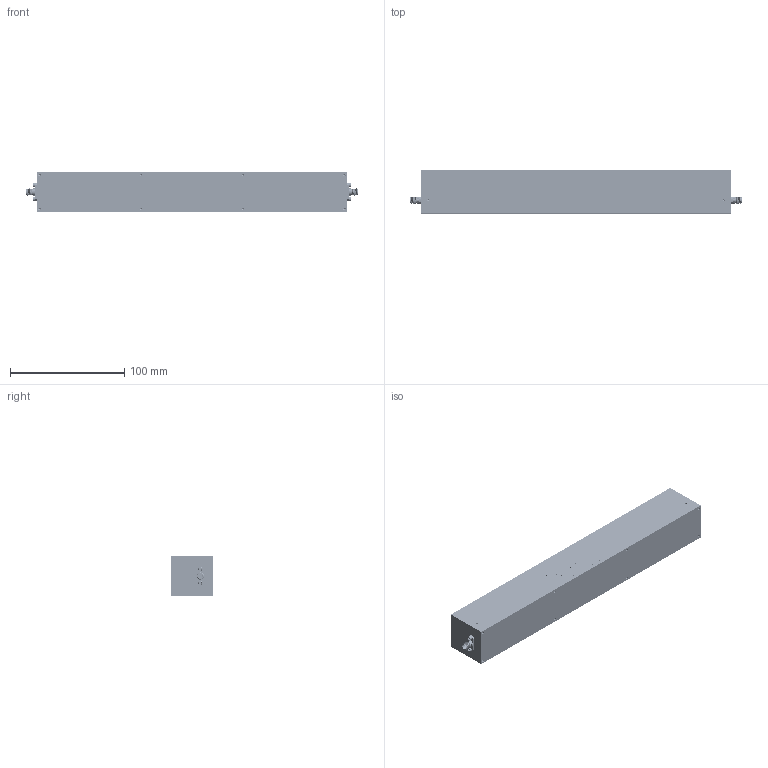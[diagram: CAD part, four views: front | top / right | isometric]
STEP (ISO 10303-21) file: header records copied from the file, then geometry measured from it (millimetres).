
FILE_DESCRIPTION (( 'STEP AP214' ), '1' );
FILE_NAME ('A6070-2100 - customer.STEP', '2025-11-12T15:36:23', ( '' ), ( '' ), 'SwSTEP 2.0', 'SolidWorks 2021', '' );
FILE_SCHEMA (( 'AUTOMOTIVE_DESIGN' ));
Length unit declared in the file: inch
Products named in the file (8): 901_9891_RFX_Cavfil; 91771A078_91771A078; A6070-2102; A6070-2100 - customer; A6070-2101 - customer; 92311A142_18-8 SS CUP POINT SET SCREW_92311A142; A6070-2104; 92196A075_92196A075
Assembly tree (47 placements, depth 2):
  A6070-2100 - customer
    A6070-2101 - customer
    A6070-2102
    92311A142_18-8 SS CUP POINT SET SCREW_92311A142  x2
    91771A078_91771A078  x36
    901_9891_RFX_Cavfil  x2
    92196A075_92196A075  x4
    A6070-2104
Bounding box: 290.32 x 37.59 x 34.37 mm (x, y, z)
Volume: 342654.4 mm3; surface area: 75720.3 mm2
Topology: 45 solids, 51 shells, 7437 faces, 19007 edges, 11748 vertices
Faces by surface type: cone 2956, cylinder 2500, plane 1251, bspline 722, torus 8
Entity records: 108102 total; most frequent: CARTESIAN_POINT 52553, ORIENTED_EDGE 9786, DIRECTION 6376, EDGE_CURVE 4896, VERTEX_POINT 3182, LINE 2498, VECTOR 2498, EDGE_LOOP 2187
